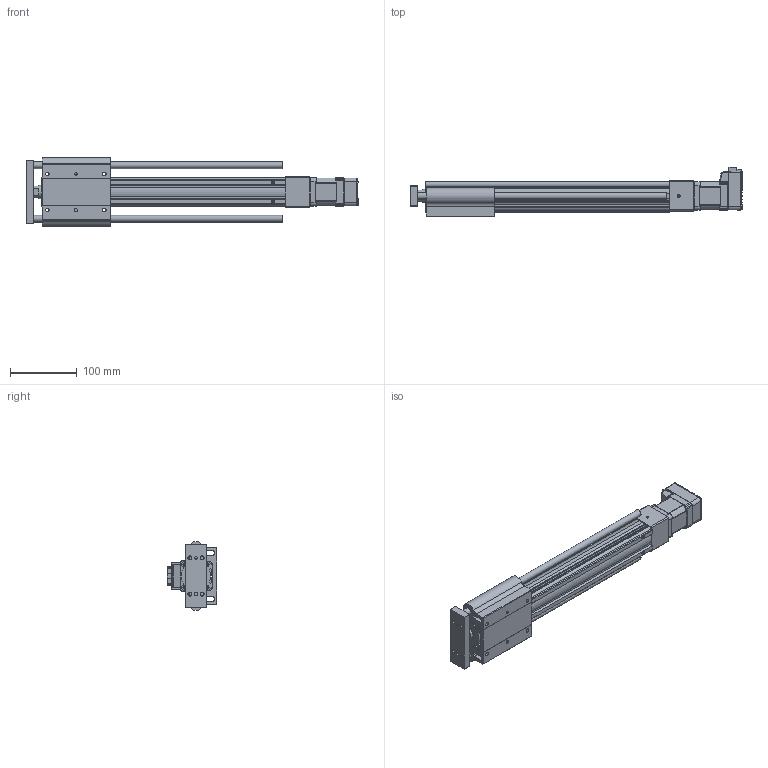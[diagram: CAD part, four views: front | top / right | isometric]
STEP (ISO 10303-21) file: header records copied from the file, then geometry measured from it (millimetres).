
FILE_DESCRIPTION (( 'STEP AP214' ), '1' );
FILE_NAME ('LEYG3(+)-25LDNM1□-250-17L.STEP', '2023-04-10T04:34:33', ( '' ), ( '' ), 'SwSTEP 2.0', 'SolidWorks 2019', '' );
FILE_SCHEMA (( 'AUTOMOTIVE_DESIGN' ));
Length unit declared in the file: millimetre
Products named in the file (6): LEYG3(+)-25□DNM1_MOTOR Flange; LEYG3(+)-25NM1?_BODY_250; LEYG3(+)-25LDNM1□-250-17L; LEYG3(+)-25LNM1□_ATTACH_250; LEYG3(+)-25LNM1?_ROD_250; CM3(+)-17L50A
Assembly tree (5 placements, depth 2):
  LEYG3(+)-25LDNM1□-250-17L
    LEYG3(+)-25NM1?_BODY_250
    LEYG3(+)-25LNM1?_ROD_250
    LEYG3(+)-25LNM1□_ATTACH_250
    LEYG3(+)-25□DNM1_MOTOR Flange
    CM3(+)-17L50A
Bounding box: 495.8 x 73.55 x 103 mm (x, y, z)
Volume: 1078229.4 mm3; surface area: 242897.9 mm2
Topology: 5 solids, 5 shells, 940 faces, 2388 edges, 1501 vertices
Faces by surface type: plane 499, cylinder 272, cone 90, bspline 29, torus 29, sphere 21
Full cylindrical faces by diameter (mm): 2.5 x4, 3.5 x4, 4 x2, 4.2 x2, 4.9 x4, 5 x1, 5.4 x4, 8 x1, 10 x2, 11 x1, 22 x1, 33 x1
Entity records: 38867 total; most frequent: CARTESIAN_POINT 6846, ORIENTED_EDGE 4620, DIRECTION 4489, EDGE_CURVE 2310, AXIS2_PLACEMENT_3D 1502, VERTEX_POINT 1494, LINE 1485, VECTOR 1485
